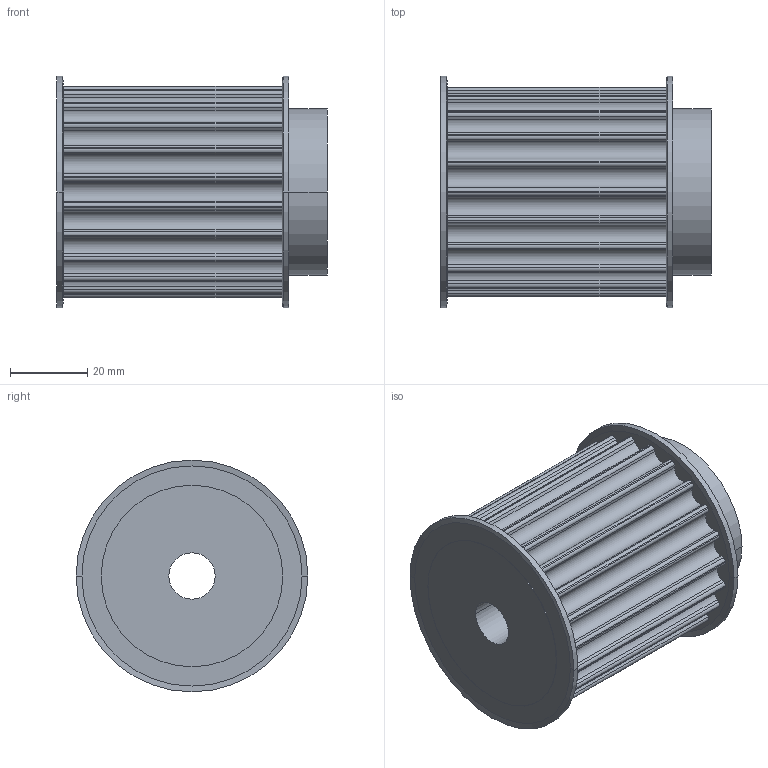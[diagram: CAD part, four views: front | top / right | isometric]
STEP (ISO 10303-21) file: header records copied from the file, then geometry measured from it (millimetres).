
FILE_DESCRIPTION( ( '' ), '1' );
FILE_NAME( 'C:/Users/Stangenbergd/Documents/CAD_Step/1/17441100.stp', '2021-10-19T10:12:04', ( '' ), ( '' ), ' ', ' ', ' ' );
FILE_SCHEMA( ( 'CONFIG_CONTROL_DESIGN' ) );
Length unit declared in the file: millimetre
Products named in the file (1): 1
Bounding box: 70.06 x 60 x 60 mm (x, y, z)
Volume: 130053.5 mm3; surface area: 25098.9 mm2
Topology: 1 solids, 1 shells, 159 faces, 448 edges, 296 vertices
Faces by surface type: cylinder 100, plane 51, cone 8
Entity records: 5274 total; most frequent: DIRECTION 976, CARTESIAN_POINT 904, ORIENTED_EDGE 896, EDGE_CURVE 448, AXIS2_PLACEMENT_3D 368, VERTEX_POINT 296, LINE 240, VECTOR 240
